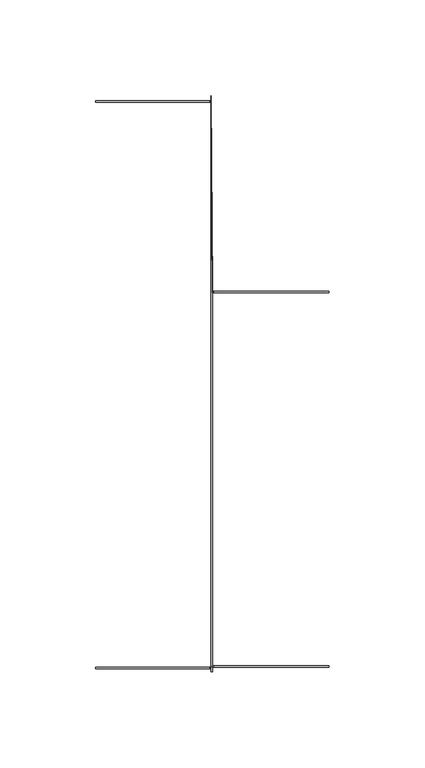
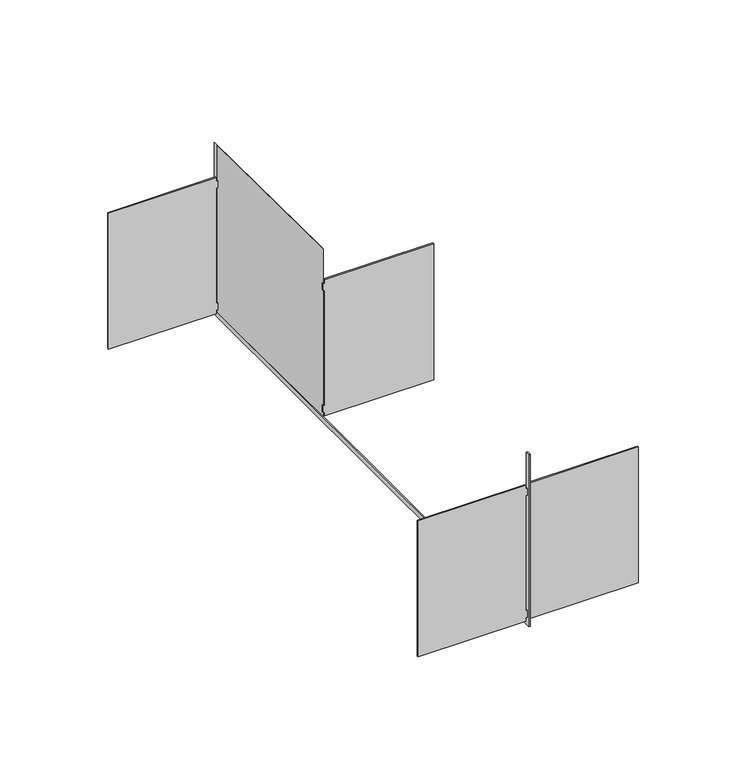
"""IFC4 building model written with IfcOpenShell, lengths in millimetres: cable carrier fitting geometry, REER_Angle Reducer-Basortray : Basortray REER-GS."""

from ifc_helpers import new_model, si_unit, frame, origin, place, context, project, spatial, polyline, outline, extrude, faceted_brep, source, transform, mapped, element, save


def cable_carrier_fitting_3c1a814d(model_context):
    return source(origin(), model_context, "Body", "SolidModel", [
        extrude(outline(polyline([(31.54, 61.6), (31.54, 1.6), (29.54, 1.6), (29.54, 0.8), (25.54, 0.8), (25.54, 1.6), (-7.96, 1.6), (-41.46, 1.6), (-41.46, 0.8), (-45.46, 0.8), (-45.46, 1.6), (-47.46, 1.6), (-47.46, 61.6), (31.54, 61.6)])), frame((0.0, 47.46, 0.0), z_axis=(0.0, 1.0, 0.0), x_axis=(0.0, 0.0, 1.0)), (0.0, 0.0, 1.0), 0.8),
        extrude(outline(polyline([(31.54, -60.0), (-47.46, -60.0), (-47.46, -0.8), (-45.46, -0.8), (-45.46, 0.0), (-41.46, 0.0), (-41.46, -0.8), (-7.96, -0.8), (25.54, -0.8), (25.54, 0.0), (29.54, 0.0), (29.54, -0.8), (31.54, -0.8), (31.54, -60.0)])), frame((0.0, -148.26, 0.0), z_axis=(0.0, 1.0, 0.0), x_axis=(0.0, 0.0, 1.0)), (0.0, 0.0, 1.0), 0.8),
        extrude(outline(polyline([(31.54, -60.0), (-47.46, -60.0), (-47.46, -0.8), (-45.46, -0.8), (-45.46, 0.0), (-41.46, 0.0), (-41.46, -0.8), (-7.96, -0.8), (25.54, -0.8), (25.54, 0.0), (29.54, 0.0), (29.54, -0.8), (31.54, -0.8), (31.54, -60.0)])), frame((0.0, 146.66, 0.0), z_axis=(0.0, 1.0, 0.0), x_axis=(0.0, 0.0, 1.0)), (0.0, 0.0, 1.0), 0.8),
        extrude(outline(polyline([(31.54, 61.6), (31.54, 1.6), (29.54, 1.6), (29.54, 0.8), (25.54, 0.8), (25.54, 1.6), (-7.96, 1.6), (-41.46, 1.6), (-41.46, 0.8), (-45.46, 0.8), (-45.46, 1.6), (-47.46, 1.6), (-47.46, 61.6), (31.54, 61.6)])), frame((0.0, -147.46, 0.0), z_axis=(0.0, 1.0, 0.0), x_axis=(0.0, 0.0, 1.0)), (0.0, 0.0, 1.0), 0.8),
        faceted_brep([(0.8, -150.0, -50.0), (0.8, 50.0, -50.0), (0.8, 50.0, 50.0), (0.8, 47.46, 50.0), (0.8, 47.46, -47.46), (0.8, -147.46, -47.46), (0.8, -147.46, 50.0), (0.8, -150.0, 50.0), (0.0, -150.0, -50.0), (0.0, -150.0, 50.0), (0.0, -147.46, 50.0), (0.0, -147.46, -47.46), (0.0, 147.46, -47.46), (0.0, 147.46, 50.0), (0.0, 150.0, 50.0), (0.0, 150.0, -50.0)], [[[0, 1, 2, 3, 4, 5, 6, 7]], [[8, 9, 10, 11, 12, 13, 14, 15]], [[8, 15, 1, 0]], [[15, 14, 2, 1]], [[14, 13, 3, 2]], [[13, 12, 4, 3]], [[12, 11, 5, 4]], [[11, 10, 6, 5]], [[10, 9, 7, 6]], [[9, 8, 0, 7]]]),
    ])


if __name__ == "__main__":
    model = new_model("IFC4")
    model_context = context("Model", 3, world=origin())
    ifc_project = project(units=[si_unit("LENGTHUNIT", "METRE", prefix="MILLI")], contexts=[model_context])
    site = spatial("IfcSite", under=ifc_project)
    building = spatial("IfcBuilding", under=site)
    placement = place(None, origin())
    cable_carrier_fitting_shape = cable_carrier_fitting_3c1a814d(model_context)
    element("IfcCableCarrierFitting", 1, ObjectType="REER_Angle Reducer-Basortray : Basortray REER-GS", at=placement, inside=building, context=model_context, shape_type="MappedRepresentation", body=[
        mapped(cable_carrier_fitting_shape, transform((0.0, 0.0, 0.0), x_axis=(1.0, 0.0, 0.0), y_axis=(0.0, 1.0, 0.0), z_axis=(0.0, 0.0, 1.0))),
    ])
    save(model, "model.ifc")
